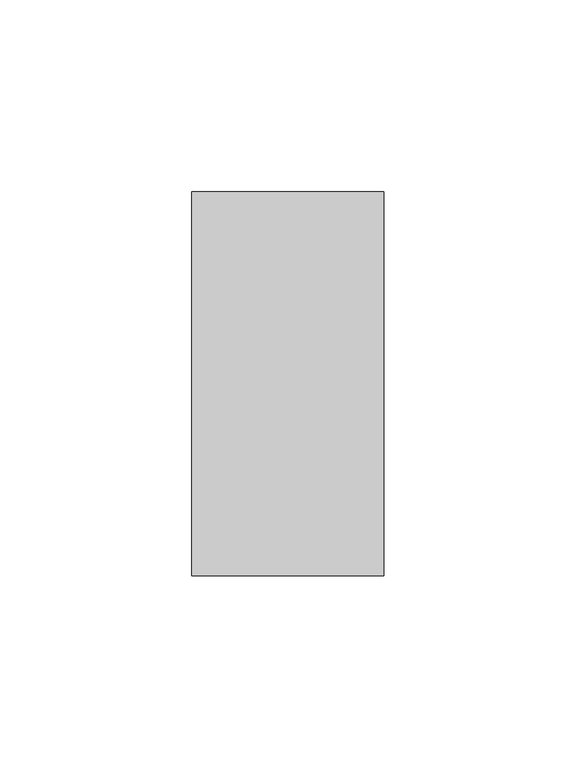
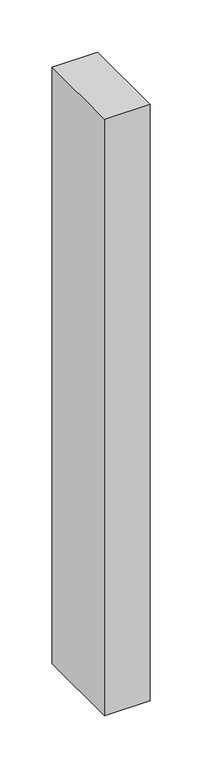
"""IFC4 building model written with IfcOpenShell, lengths in millimetres: member geometry, Прямоугольный импост : 50х100."""

import ifcopenshell
import ifcopenshell.guid

model = None  # the IFC model being written
_history = None  # IfcOwnerHistory: only IFC2X3 demands one
_inside = {}  # id of a spatial element -> (the spatial element, [elements in it])
_under = {}  # id of a project, library or spatial element -> (it, [spatial elements below it])
_declared = {}  # id of a project -> (the project, [libraries it declares])
_typed = {}  # id of a type object -> (the type object, [elements of that type])
_made_of = {}  # id of a material, layer set ... -> (it, [elements and type objects made of it])


def new_model(schema):
    """Start an empty IFC model of exactly this schema.

    Asked for "IFC4X3", IfcOpenShell would pick the latest addendum, in which some entities
    have other attributes; the version numbers below select the first issue.
    IFC2X3 requires an IfcOwnerHistory on every rooted entity: one is made here for all.
    """
    global model, _history
    if schema == "IFC4X3":
        model = ifcopenshell.file(schema_version=(4, 3, 0, 0))
    else:
        model = ifcopenshell.file(schema=schema)
    _inside.clear()
    _under.clear()
    _declared.clear()
    _typed.clear()
    _made_of.clear()
    _history = None
    if model.schema == "IFC2X3":
        org = make("IfcOrganization", Name="unknown")
        user = make(
            "IfcPersonAndOrganization",
            ThePerson=make("IfcPerson", FamilyName="unknown"),
            TheOrganization=org,
        )
        app = make(
            "IfcApplication",
            ApplicationDeveloper=org,
            Version="unknown",
            ApplicationFullName="unknown",
            ApplicationIdentifier="unknown",
        )
        _history = make(
            "IfcOwnerHistory",
            OwningUser=user,
            OwningApplication=app,
            ChangeAction="ADDED",
            CreationDate=0,
        )
    return model


def make(cls, **values):
    """One entity of the class cls with the attributes given. An attribute that is None is left unset."""
    return model.create_entity(
        cls, **{name: value for name, value in values.items() if value is not None}
    )


def rooted(cls, **values):
    """An entity with a GlobalId (a new one), such as an element, a storey or a relation."""
    return make(cls, GlobalId=ifcopenshell.guid.new(), OwnerHistory=_history, **values)


def si_unit(unit_type, name, prefix=None):
    """IfcSIUnit, for example si_unit("LENGTHUNIT", "METRE", prefix="MILLI")."""
    return make("IfcSIUnit", UnitType=unit_type, Prefix=prefix, Name=name)


def assignment(units):
    """IfcUnitAssignment: the units of a project."""
    return None if units is None else make("IfcUnitAssignment", Units=units)


def point(xyz):
    """IfcCartesianPoint."""
    return None if xyz is None else make("IfcCartesianPoint", Coordinates=xyz)


def direction(xyz):
    """IfcDirection."""
    return None if xyz is None else make("IfcDirection", DirectionRatios=xyz)


def frame(location, z_axis=None, x_axis=None):
    """IfcAxis2Placement3D, a coordinate frame: its origin and axes. An axis left out is left unset."""
    return make(
        "IfcAxis2Placement3D",
        Location=point(location),
        Axis=direction(z_axis),
        RefDirection=direction(x_axis),
    )


def origin():
    """The frame at (0, 0, 0) with its axes left unset."""
    return frame((0.0, 0.0, 0.0))


def place(relative_to, where):
    """IfcLocalPlacement: puts the frame where relative to a parent placement (None: the world)."""
    return make(
        "IfcLocalPlacement", PlacementRelTo=relative_to, RelativePlacement=where
    )


def context(
    kind, dimensions, precision=None, world=None, true_north=None, identifier=None
):
    """IfcGeometricRepresentationContext, for example the 3D "Model" context."""
    return make(
        "IfcGeometricRepresentationContext",
        ContextIdentifier=identifier,
        ContextType=kind,
        CoordinateSpaceDimension=dimensions,
        Precision=precision,
        WorldCoordinateSystem=world,
        TrueNorth=true_north,
    )


def project(units=None, contexts=None):
    """IfcProject with its units and contexts."""
    return rooted(
        "IfcProject",
        Name="project",
        RepresentationContexts=contexts,
        UnitsInContext=assignment(units),
    )


def spatial(cls, under=None, at=None, **own):
    """A site, building, storey or space (cls), placed at a placement, below another one or the project."""
    s = rooted(cls, ObjectPlacement=at, **own)
    if under is not None:
        _under.setdefault(under.id(), (under, []))[1].append(s)
    return s


def polyline(points):
    """IfcPolyline through the points."""
    return make("IfcPolyline", Points=[point(p) for p in points])


def outline(outer, holes=None, kind="AREA"):
    """IfcArbitraryClosedProfileDef: a profile drawn as a closed curve; with holes, ...WithVoids."""
    if holes is None:
        return make("IfcArbitraryClosedProfileDef", ProfileType=kind, OuterCurve=outer)
    return make(
        "IfcArbitraryProfileDefWithVoids",
        ProfileType=kind,
        OuterCurve=outer,
        InnerCurves=holes,
    )


def extrude(swept, where, along, depth):
    """IfcExtrudedAreaSolid: the profile swept, set in the frame where, extruded along a direction by depth."""
    return make(
        "IfcExtrudedAreaSolid",
        SweptArea=swept,
        Position=where,
        ExtrudedDirection=direction(along),
        Depth=depth,
    )


def shape(context_of_items, identifier, shape_type, items):
    """IfcShapeRepresentation: the items that make up one representation, for example the "Body"."""
    return make(
        "IfcShapeRepresentation",
        ContextOfItems=context_of_items,
        RepresentationIdentifier=identifier,
        RepresentationType=shape_type,
        Items=items,
    )


def source(mapping_origin, context_of_items, identifier, shape_type, items):
    """IfcRepresentationMap: a shape defined once, which mapped items show again and again."""
    return make(
        "IfcRepresentationMap",
        MappingOrigin=mapping_origin,
        MappedRepresentation=shape(context_of_items, identifier, shape_type, items),
    )


def transform(
    local_origin,
    x_axis=None,
    y_axis=None,
    z_axis=None,
    scale=None,
    scale2=None,
    scale3=None,
    uniform=True,
):
    """IfcCartesianTransformationOperator3D, or its non-uniform kind. x_axis, y_axis, z_axis: its Axis1, 2, 3."""
    if uniform:
        return make(
            "IfcCartesianTransformationOperator3D",
            Axis1=direction(x_axis),
            Axis2=direction(y_axis),
            LocalOrigin=point(local_origin),
            Scale=scale,
            Axis3=direction(z_axis),
        )
    return make(
        "IfcCartesianTransformationOperator3DnonUniform",
        Axis1=direction(x_axis),
        Axis2=direction(y_axis),
        LocalOrigin=point(local_origin),
        Scale=scale,
        Axis3=direction(z_axis),
        Scale2=scale2,
        Scale3=scale3,
    )


def mapped(mapping_source, mapping_target):
    """IfcMappedItem: shows the shape of a source again, moved by a transform."""
    return make(
        "IfcMappedItem", MappingSource=mapping_source, MappingTarget=mapping_target
    )


def made_of(thing, what):
    """Note that an element or type object is made of a material, layer set ...; save() writes the relation."""
    if what is not None:
        _made_of.setdefault(what.id(), (what, []))[1].append(thing)
    return thing


def element(
    cls,
    number,
    at=None,
    inside=None,
    cuts=None,
    type_object=None,
    material=None,
    context=None,
    identifier="Body",
    shape_type=None,
    held_by="IfcProductDefinitionShape",
    body=None,
    shapes=None,
    **own,
):
    """One element of the class cls, such as IfcWall. Its Tag is "e" and its number.

    at: its placement. inside: the storey or other place that contains it. cuts: it is an
    opening in that element (IfcRelVoidsElement). A single representation is given by context,
    identifier, shape_type and body (its items); several are given by shapes. held_by: the class
    of the entity that holds the representations. save() writes the other relations.
    """
    e = rooted(cls, Tag="e%d" % number, ObjectPlacement=at, **own)
    if body is not None:
        shapes = [shape(context, identifier, shape_type, body)]
    if shapes is not None:
        e.Representation = make(held_by, Representations=shapes)
    if inside is not None:
        _inside.setdefault(inside.id(), (inside, []))[1].append(e)
    if cuts is not None:
        rooted(
            "IfcRelVoidsElement", RelatingBuildingElement=cuts, RelatedOpeningElement=e
        )
    if type_object is not None:
        _typed.setdefault(type_object.id(), (type_object, []))[1].append(e)
    return made_of(e, material)


def aggregate(whole, parts):
    """IfcRelAggregates: a whole, such as a stair, and the parts it consists of."""
    return rooted("IfcRelAggregates", RelatingObject=whole, RelatedObjects=parts)


def save(model, path):
    """Write the relations noted so far, then the file.

    IfcRelAggregates (storeys below a building ...), IfcRelContainedInSpatialStructure (elements
    in a storey), IfcRelDefinesByType, IfcRelAssociatesMaterial and IfcRelDeclares: one each for
    every whole, place, type object, material and project.
    """
    for whole, parts in _under.values():
        aggregate(whole, parts)
    for where, things in _inside.values():
        rooted(
            "IfcRelContainedInSpatialStructure",
            RelatedElements=things,
            RelatingStructure=where,
        )
    for kind, things in _typed.values():
        rooted("IfcRelDefinesByType", RelatedObjects=things, RelatingType=kind)
    for what, things in _made_of.values():
        rooted("IfcRelAssociatesMaterial", RelatedObjects=things, RelatingMaterial=what)
    for by, libraries in _declared.values():
        rooted("IfcRelDeclares", RelatingContext=by, RelatedDefinitions=libraries)
    model.write(path)


def member_4112119e(model_context):
    return source(origin(), model_context, "Body", "SweptSolid", [
        extrude(outline(polyline([(0.0, 50.0), (0.0, -50.0), (-50.0, -50.0), (-50.0, 50.0), (0.0, 50.0)])), frame((0.0, 0.0, -695.0), z_axis=(0.0, 0.0, 1.0), x_axis=(1.0, 0.0, 0.0)), (0.0, 0.0, 1.0), 695.0),
    ])


if __name__ == "__main__":
    model = new_model("IFC4")
    model_context = context("Model", 3, world=origin())
    ifc_project = project(units=[si_unit("LENGTHUNIT", "METRE", prefix="MILLI")], contexts=[model_context])
    site = spatial("IfcSite", under=ifc_project)
    building = spatial("IfcBuilding", under=site)
    placement = place(None, origin())
    member_shape = member_4112119e(model_context)
    element("IfcMember", 1, ObjectType="Прямоугольный импост : 50х100", at=placement, inside=building, context=model_context, shape_type="MappedRepresentation", body=[
        mapped(member_shape, transform((0.0, 0.0, 0.0), x_axis=(1.0, 0.0, 0.0), y_axis=(0.0, 1.0, 0.0), z_axis=(0.0, 0.0, 1.0))),
    ])
    save(model, "model.ifc")
